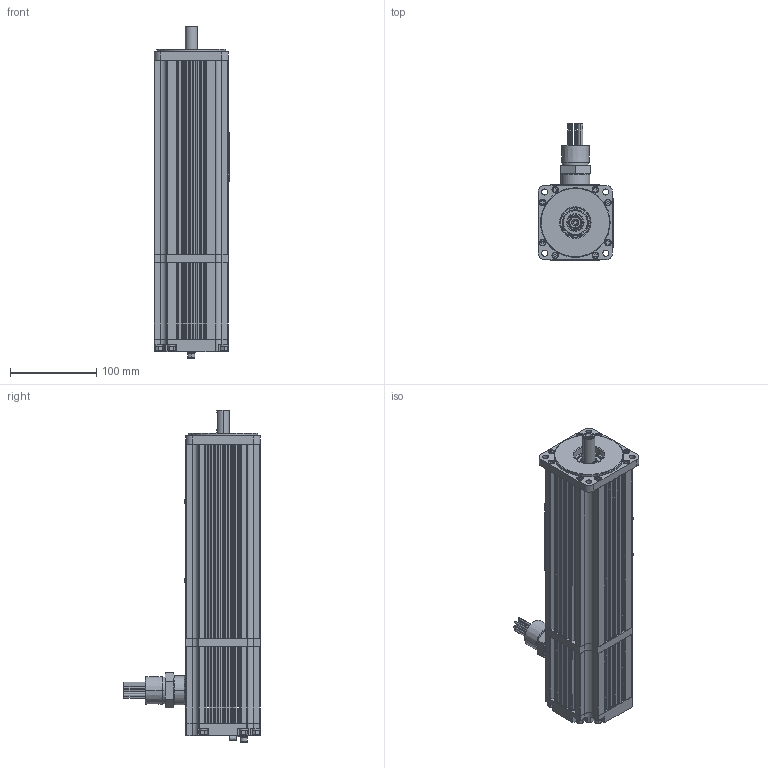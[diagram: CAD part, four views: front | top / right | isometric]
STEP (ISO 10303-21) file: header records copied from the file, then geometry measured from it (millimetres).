
FILE_DESCRIPTION (( 'STEP AP203' ), '1' );
FILE_NAME ('M431-NNNB-8T08.STEP', '2010-02-02T15:19:45', ( 'New3' ), ( 'Elwood Corp.' ), 'SwSTEP 2.0', 'SolidWorks 2009', '' );
FILE_SCHEMA (( 'CONFIG_CONTROL_DESIGN' ));
Products named in the file (1): M431-NNNB-8T08
Bounding box: 87.61 x 157.81 x 383.87 mm (x, y, z)
Surface area: 191713.1 mm2 (no closed solid volume)
Topology: 0 solids, 80 shells, 1166 faces, 4647 edges, 3524 vertices
Faces by surface type: plane 629, cylinder 401, cone 63, bspline 58, torus 15
Entity records: 55891 total; most frequent: CARTESIAN_POINT 18521, DIRECTION 7491, ORIENTED_EDGE 6489, EDGE_CURVE 4647, VERTEX_POINT 3524, VECTOR 3117, LINE 3117, AXIS2_PLACEMENT_3D 2187
